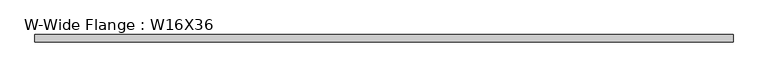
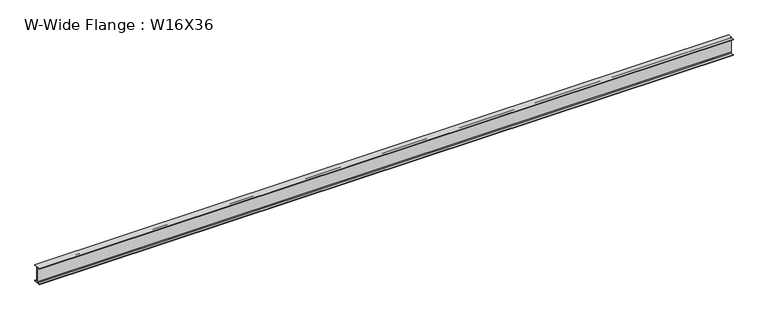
"""IFC4 building model written with IfcOpenShell, lengths in millimetres: beam geometry, W-Wide Flange : W16X36."""

from ifc_helpers import new_model, si_unit, point, frame, frame_2d, origin, place, context, project, spatial, polyline, circle_curve, trimmed, segment, composite_curve, outline, extrude, source, transform, mapped, element, save


def w_wide_flange_w16x36_82c507be(model_context):
    return source(origin(), model_context, "Body", "SweptSolid", [
        extrude(outline(composite_curve([segment(polyline([(88.773, -191.008), (88.773, -201.93), (-88.773, -201.93), (-88.773, -191.008), (-21.3995, -191.008)]), True, "CONTINUOUS"), segment(trimmed(circle_curve(frame_2d((-21.3995, -173.355)), 17.653), [point((-21.3995, -191.008))], [point((-3.7465, -173.355))], True, "CARTESIAN"), True, "CONTINUOUS"), segment(polyline([(-3.7465, -173.355), (-3.7465, 173.355)]), True, "CONTINUOUS"), segment(trimmed(circle_curve(frame_2d((-21.3995, 173.355)), 17.653), [point((-3.7465, 173.355))], [point((-21.3995, 191.008))], True, "CARTESIAN"), True, "CONTINUOUS"), segment(polyline([(-21.3995, 191.008), (-88.773, 191.008), (-88.773, 201.93), (88.773, 201.93), (88.773, 191.008), (21.3995, 191.008)]), True, "CONTINUOUS"), segment(trimmed(circle_curve(frame_2d((21.3995, 173.355)), 17.653), [point((21.3995, 191.008))], [point((3.7465, 173.355))], True, "CARTESIAN"), True, "CONTINUOUS"), segment(polyline([(3.7465, 173.355), (3.7465, -173.355)]), True, "CONTINUOUS"), segment(trimmed(circle_curve(frame_2d((21.3995, -173.355)), 17.653), [point((3.7465, -173.355))], [point((21.3995, -191.008))], True, "CARTESIAN"), True, "CONTINUOUS"), segment(polyline([(21.3995, -191.008), (88.773, -191.008)]), True, "CONTINUOUS")], self_intersect=False)), frame((-15176.373, 0.0, 0.0), z_axis=(1.0, 0.0, 0.0), x_axis=(0.0, 1.0, 0.0)), (0.0, 0.0, 1.0), 16636.746),
    ])


if __name__ == "__main__":
    model = new_model("IFC4")
    model_context = context("Model", 3, world=origin())
    ifc_project = project(units=[si_unit("LENGTHUNIT", "METRE", prefix="MILLI")], contexts=[model_context])
    site = spatial("IfcSite", under=ifc_project)
    building = spatial("IfcBuilding", under=site)
    placement = place(None, origin())
    w_wide_flange_w16x36_shape = w_wide_flange_w16x36_82c507be(model_context)
    element("IfcBeam", 1, ObjectType="W-Wide Flange : W16X36", at=placement, inside=building, context=model_context, shape_type="MappedRepresentation", body=[
        mapped(w_wide_flange_w16x36_shape, transform((0.0, 0.0, 0.0), x_axis=(1.0, 0.0, 0.0), y_axis=(0.0, 1.0, 0.0), z_axis=(0.0, 0.0, 1.0))),
    ])
    save(model, "model.ifc")
